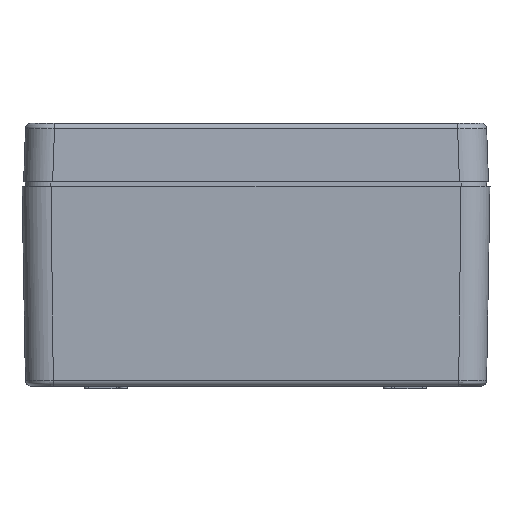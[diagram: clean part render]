
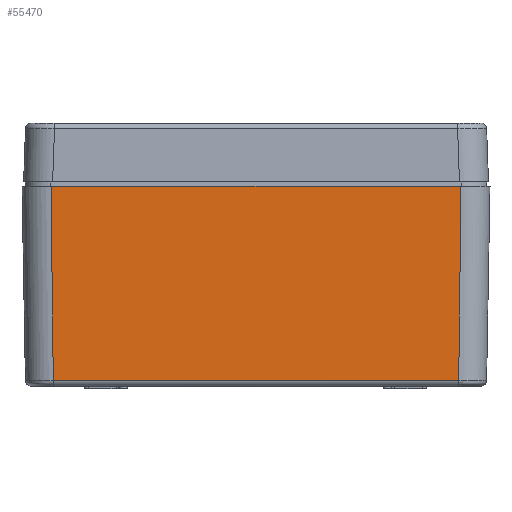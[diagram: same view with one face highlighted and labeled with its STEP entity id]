
A CAD part, left-side view. The second image highlights one B-rep face of the part: STEP entity #55470.
In plain terms, the highlighted planar face has unit normal (-1, 0, -0.018).
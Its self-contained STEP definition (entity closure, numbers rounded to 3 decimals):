
#1045 = CARTESIAN_POINT ( 'NONE',  ( -180.499, -70.83, -1.5 ) ) ;
#2229 = DIRECTION ( 'NONE',  ( 0., 1., 0. ) ) ;
#2727 = DIRECTION ( 'NONE',  ( 0., 1., 0. ) ) ;
#6204 = CARTESIAN_POINT ( 'NONE',  ( -180.499, 70.43, -1.5 ) ) ;
#8280 = CARTESIAN_POINT ( 'NONE',  ( -180.499, 79.9, -1.5 ) ) ;
#9238 = EDGE_CURVE ( 'NONE', #28431, #14360, #19965, .T. ) ;
#9332 = VECTOR ( 'NONE', #53868, 1000. ) ;
#12887 = EDGE_LOOP ( 'NONE', ( #47235, #24133, #28776, #41498 ) ) ;
#14360 = VERTEX_POINT ( 'NONE', #62488 ) ;
#15241 = EDGE_CURVE ( 'NONE', #63739, #26620, #39597, .T. ) ;
#18961 = EDGE_CURVE ( 'NONE', #26620, #14360, #49313, .T. ) ;
#19965 = LINE ( 'NONE', #65805, #51002 ) ;
#20286 = CARTESIAN_POINT ( 'NONE',  ( -180.853, 79.9, 18.768 ) ) ;
#24133 = ORIENTED_EDGE ( 'NONE', *, *, #9238, .F. ) ;
#25630 = DIRECTION ( 'NONE',  ( -1., 0., -0.017 ) ) ;
#26620 = VERTEX_POINT ( 'NONE', #6204 ) ;
#26696 = CARTESIAN_POINT ( 'NONE',  ( -179.332, -70.043, -68.335 ) ) ;
#28431 = VERTEX_POINT ( 'NONE', #43404 ) ;
#28676 = VECTOR ( 'NONE', #2727, 1000. ) ;
#28776 = ORIENTED_EDGE ( 'NONE', *, *, #42457, .T. ) ;
#30579 = PLANE ( 'NONE',  #55241 ) ;
#35097 = VECTOR ( 'NONE', #61582, 1000. ) ;
#39597 = LINE ( 'NONE', #8280, #28676 ) ;
#41498 = ORIENTED_EDGE ( 'NONE', *, *, #15241, .T. ) ;
#42457 = EDGE_CURVE ( 'NONE', #28431, #63739, #49574, .T. ) ;
#43404 = CARTESIAN_POINT ( 'NONE',  ( -179.332, -70.043, -68.335 ) ) ;
#45951 = CARTESIAN_POINT ( 'NONE',  ( -180.499, 70.43, -1.5 ) ) ;
#47235 = ORIENTED_EDGE ( 'NONE', *, *, #18961, .T. ) ;
#49313 = LINE ( 'NONE', #45951, #35097 ) ;
#49574 = LINE ( 'NONE', #26696, #9332 ) ;
#51002 = VECTOR ( 'NONE', #2229, 1000. ) ;
#53868 = DIRECTION ( 'NONE',  ( -0.017, -0.012, 1. ) ) ;
#54192 = FACE_OUTER_BOUND ( 'NONE', #12887, .T. ) ;
#55241 = AXIS2_PLACEMENT_3D ( 'NONE', #20286, #25630, #63048 ) ;
#55470 = ADVANCED_FACE ( 'NONE', ( #54192 ), #30579, .T. ) ;
#61582 = DIRECTION ( 'NONE',  ( 0.017, -0.012, -1. ) ) ;
#62488 = CARTESIAN_POINT ( 'NONE',  ( -179.332, 69.643, -68.335 ) ) ;
#63048 = DIRECTION ( 'NONE',  ( -0.017, 0., 1. ) ) ;
#63739 = VERTEX_POINT ( 'NONE', #1045 ) ;
#65805 = CARTESIAN_POINT ( 'NONE',  ( -179.332, -0.2, -68.335 ) ) ;
